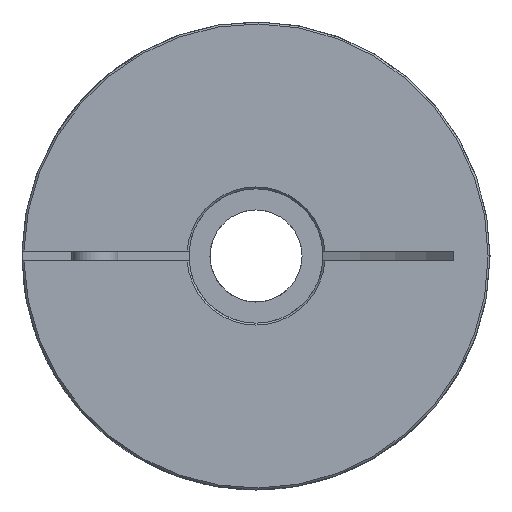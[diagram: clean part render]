
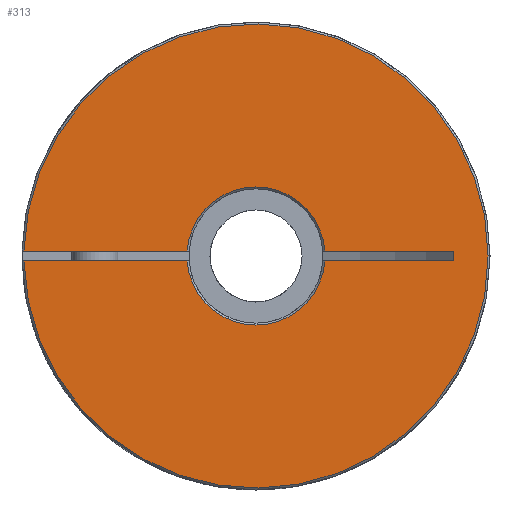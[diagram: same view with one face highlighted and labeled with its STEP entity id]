
A CAD part, left-side view. The second image highlights one B-rep face of the part: STEP entity #313.
In plain terms, the highlighted planar face has unit normal (-1, 0, 0).
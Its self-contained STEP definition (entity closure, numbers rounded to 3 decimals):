
#313 = ADVANCED_FACE( 'NONE', ( #714 ), #715, .F. );
#714 = FACE_OUTER_BOUND( '', #1314, .T. );
#715 = PLANE( '', #1315 );
#1314 = EDGE_LOOP( '', ( #1926, #1927, #1928, #1929, #1930, #1931, #1932, #1933 ) );
#1315 = AXIS2_PLACEMENT_3D( '', #1934, #1935, #1936 );
#1926 = ORIENTED_EDGE( '', *, *, #3288, .T. );
#1927 = ORIENTED_EDGE( '', *, *, #3289, .T. );
#1928 = ORIENTED_EDGE( '', *, *, #3290, .T. );
#1929 = ORIENTED_EDGE( '', *, *, #3291, .T. );
#1930 = ORIENTED_EDGE( '', *, *, #3292, .F. );
#1931 = ORIENTED_EDGE( '', *, *, #3293, .T. );
#1932 = ORIENTED_EDGE( '', *, *, #3294, .F. );
#1933 = ORIENTED_EDGE( '', *, *, #3295, .T. );
#1934 = CARTESIAN_POINT( '', ( 0., 17.5, 0. ) );
#1935 = DIRECTION( '', ( 1., 0., 0. ) );
#1936 = DIRECTION( '', ( 0., 1., 0. ) );
#3288 = EDGE_CURVE( 'NONE', #3832, #3833, #3834, .T. );
#3289 = EDGE_CURVE( 'NONE', #3833, #3835, #3836, .T. );
#3290 = EDGE_CURVE( 'NONE', #3835, #3837, #3838, .T. );
#3291 = EDGE_CURVE( 'NONE', #3837, #3839, #3840, .F. );
#3292 = EDGE_CURVE( 'NONE', #3841, #3839, #3842, .F. );
#3293 = EDGE_CURVE( 'NONE', #3841, #3843, #3844, .T. );
#3294 = EDGE_CURVE( 'NONE', #3845, #3843, #3846, .F. );
#3295 = EDGE_CURVE( 'NONE', #3845, #3832, #3847, .T. );
#3832 = VERTEX_POINT( 'NONE', #4600 );
#3833 = VERTEX_POINT( 'NONE', #4601 );
#3834 = LINE( '', #4602, #4603 );
#3835 = VERTEX_POINT( 'NONE', #4604 );
#3836 = CIRCLE( '', #4605, 18. );
#3837 = VERTEX_POINT( 'NONE', #4606 );
#3838 = LINE( '', #4607, #4608 );
#3839 = VERTEX_POINT( 'NONE', #4609 );
#3840 = CIRCLE( '', #4610, 60.5 );
#3841 = VERTEX_POINT( 'NONE', #4611 );
#3842 = LINE( '', #4612, #4613 );
#3843 = VERTEX_POINT( 'NONE', #4614 );
#3844 = CIRCLE( '', #4615, 18. );
#3845 = VERTEX_POINT( 'NONE', #4616 );
#3846 = LINE( '', #4617, #4618 );
#3847 = LINE( '', #4619, #4620 );
#4600 = CARTESIAN_POINT( '', ( 0., 51.446, 1.3 ) );
#4601 = CARTESIAN_POINT( '', ( 0., 17.953, 1.3 ) );
#4602 = CARTESIAN_POINT( '', ( 0., 17.5, 1.3 ) );
#4603 = VECTOR( '', #5836, 1000. );
#4604 = CARTESIAN_POINT( '', ( 0., -17.953, 1.3 ) );
#4605 = AXIS2_PLACEMENT_3D( '', #5837, #5838, #5839 );
#4606 = CARTESIAN_POINT( '', ( 0., -60.486, 1.3 ) );
#4607 = CARTESIAN_POINT( '', ( 0., 17.5, 1.3 ) );
#4608 = VECTOR( '', #5840, 1000. );
#4609 = CARTESIAN_POINT( '', ( 0., -60.486, -1.3 ) );
#4610 = AXIS2_PLACEMENT_3D( '', #5841, #5842, #5843 );
#4611 = CARTESIAN_POINT( '', ( 0., -17.953, -1.3 ) );
#4612 = CARTESIAN_POINT( '', ( 0., -13., -1.3 ) );
#4613 = VECTOR( '', #5844, 1000. );
#4614 = CARTESIAN_POINT( '', ( 0., 17.953, -1.3 ) );
#4615 = AXIS2_PLACEMENT_3D( '', #5845, #5846, #5847 );
#4616 = CARTESIAN_POINT( '', ( 0., 51.446, -1.3 ) );
#4617 = CARTESIAN_POINT( '', ( 0., -13., -1.3 ) );
#4618 = VECTOR( '', #5848, 1000. );
#4619 = CARTESIAN_POINT( '', ( 0., 51.446, -1.3 ) );
#4620 = VECTOR( '', #5849, 1000. );
#5836 = DIRECTION( '', ( 0., -1., 0. ) );
#5837 = CARTESIAN_POINT( '', ( 0., 0., 0. ) );
#5838 = DIRECTION( '', ( 1., 0., 0. ) );
#5839 = DIRECTION( '', ( 0., 0., -1. ) );
#5840 = DIRECTION( '', ( 0., -1., 0. ) );
#5841 = CARTESIAN_POINT( '', ( 0., 0., 0. ) );
#5842 = DIRECTION( '', ( 1., 0., 0. ) );
#5843 = DIRECTION( '', ( 0., 0., -1. ) );
#5844 = DIRECTION( '', ( 0., 1., 0. ) );
#5845 = CARTESIAN_POINT( '', ( 0., 0., 0. ) );
#5846 = DIRECTION( '', ( 1., 0., 0. ) );
#5847 = DIRECTION( '', ( 0., 0., -1. ) );
#5848 = DIRECTION( '', ( 0., 1., 0. ) );
#5849 = DIRECTION( '', ( 0., 0., 1. ) );
